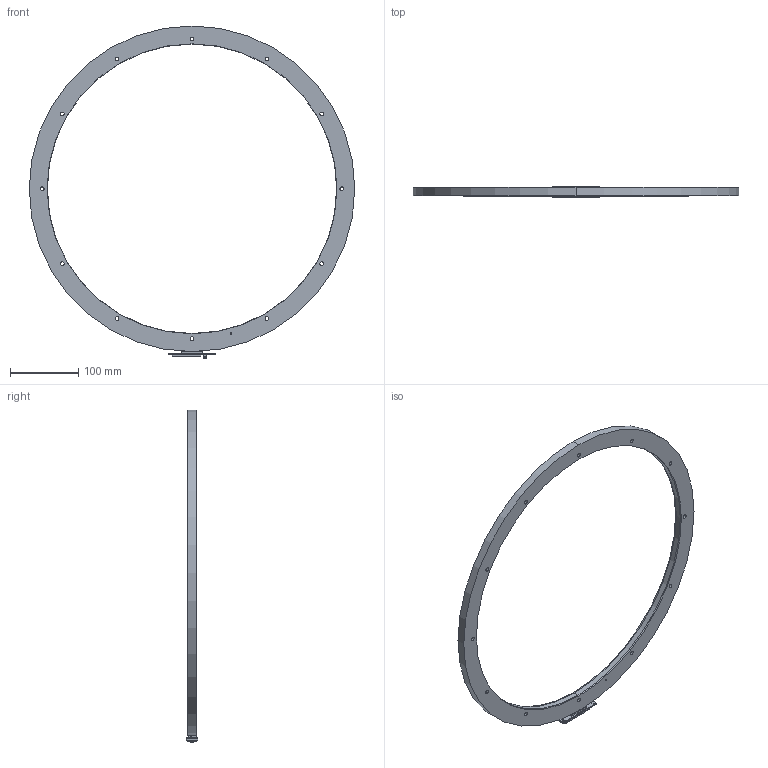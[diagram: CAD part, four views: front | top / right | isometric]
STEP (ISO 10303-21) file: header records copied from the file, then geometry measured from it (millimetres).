
FILE_DESCRIPTION (( 'STEP AP214' ), '1' );
FILE_NAME ('DBRxHx_SAR478.STEP', '2024-02-01T09:24:18', ( '' ), ( '' ), 'SwSTEP 2.0', 'SolidWorks 2022', '' );
FILE_SCHEMA (( 'AUTOMOTIVE_DESIGN' ));
Length unit declared in the file: millimetre
Products named in the file (1): DBRxHx_SAR478
Bounding box: 478.18 x 17 x 487.6 mm (x, y, z)
Volume: 444738.7 mm3; surface area: 115320.8 mm2
Topology: 1 solids, 2 shells, 2278 faces, 6386 edges, 4245 vertices
Faces by surface type: plane 1976, cylinder 143, bspline 143, cone 12, sphere 4
Entity records: 105442 total; most frequent: CARTESIAN_POINT 25845, ORIENTED_EDGE 12750, DIRECTION 8749, EDGE_CURVE 6375, VERTEX_POINT 4244, VECTOR 4197, LINE 4197, EDGE_LOOP 2483
